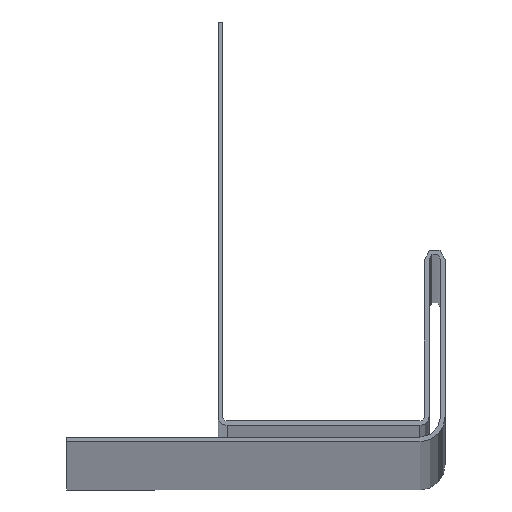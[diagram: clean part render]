
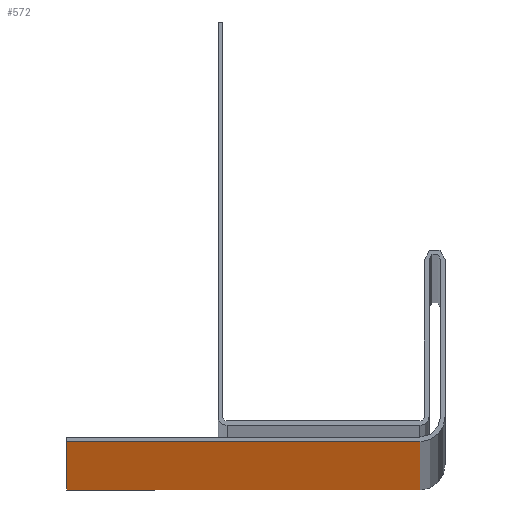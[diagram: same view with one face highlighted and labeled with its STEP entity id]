
A CAD part, top view. The second image highlights one B-rep face of the part: STEP entity #572.
In plain terms, the highlighted planar face has unit normal (0, -1, 0).
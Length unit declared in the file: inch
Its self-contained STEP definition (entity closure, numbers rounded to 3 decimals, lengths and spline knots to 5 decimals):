
#145 = CARTESIAN_POINT ( 'NONE',  ( -0.6558, -0.07, 120. ) ) ;
#155 = DIRECTION ( 'NONE',  ( 0., 0., -1. ) ) ;
#158 = DIRECTION ( 'NONE',  ( 0., 0., -1. ) ) ;
#200 = ORIENTED_EDGE ( 'NONE', *, *, #772, .F. ) ;
#230 = CARTESIAN_POINT ( 'NONE',  ( 0.87563, -0.07, 0. ) ) ;
#236 = VERTEX_POINT ( 'NONE', #651 ) ;
#244 = CARTESIAN_POINT ( 'NONE',  ( 0.87563, -0.07, 120. ) ) ;
#255 = ORIENTED_EDGE ( 'NONE', *, *, #517, .F. ) ;
#267 = PLANE ( 'NONE',  #830 ) ;
#295 = CARTESIAN_POINT ( 'NONE',  ( 0.87563, -0.07, 120. ) ) ;
#346 = VECTOR ( 'NONE', #501, 39.37008 ) ;
#353 = DIRECTION ( 'NONE',  ( 1., 0., 0. ) ) ;
#356 = LINE ( 'NONE', #464, #346 ) ;
#359 = ORIENTED_EDGE ( 'NONE', *, *, #728, .T. ) ;
#386 = VECTOR ( 'NONE', #155, 39.37008 ) ;
#402 = ORIENTED_EDGE ( 'NONE', *, *, #806, .T. ) ;
#420 = VECTOR ( 'NONE', #158, 39.37008 ) ;
#421 = EDGE_LOOP ( 'NONE', ( #255, #200, #402, #359 ) ) ;
#426 = VERTEX_POINT ( 'NONE', #623 ) ;
#428 = DIRECTION ( 'NONE',  ( 0., -1., 0. ) ) ;
#441 = CARTESIAN_POINT ( 'NONE',  ( -0.6558, -0.07, 0. ) ) ;
#449 = LINE ( 'NONE', #295, #386 ) ;
#464 = CARTESIAN_POINT ( 'NONE',  ( 0.87563, -0.07, 120. ) ) ;
#471 = LINE ( 'NONE', #145, #420 ) ;
#487 = VECTOR ( 'NONE', #625, 39.37008 ) ;
#488 = CARTESIAN_POINT ( 'NONE',  ( 0.87563, -0.07, 120. ) ) ;
#501 = DIRECTION ( 'NONE',  ( -1., 0., 0. ) ) ;
#507 = FACE_OUTER_BOUND ( 'NONE', #421, .T. ) ;
#517 = EDGE_CURVE ( 'NONE', #236, #791, #525, .T. ) ;
#525 = LINE ( 'NONE', #230, #487 ) ;
#572 = ADVANCED_FACE ( 'NONE', ( #507 ), #267, .T. ) ;
#623 = CARTESIAN_POINT ( 'NONE',  ( -0.6558, -0.07, 120. ) ) ;
#625 = DIRECTION ( 'NONE',  ( -1., 0., 0. ) ) ;
#651 = CARTESIAN_POINT ( 'NONE',  ( 0.87563, -0.07, 0. ) ) ;
#728 = EDGE_CURVE ( 'NONE', #426, #791, #471, .T. ) ;
#750 = VERTEX_POINT ( 'NONE', #244 ) ;
#772 = EDGE_CURVE ( 'NONE', #750, #236, #449, .T. ) ;
#791 = VERTEX_POINT ( 'NONE', #441 ) ;
#806 = EDGE_CURVE ( 'NONE', #750, #426, #356, .T. ) ;
#830 = AXIS2_PLACEMENT_3D ( 'NONE', #488, #428, #353 ) ;
